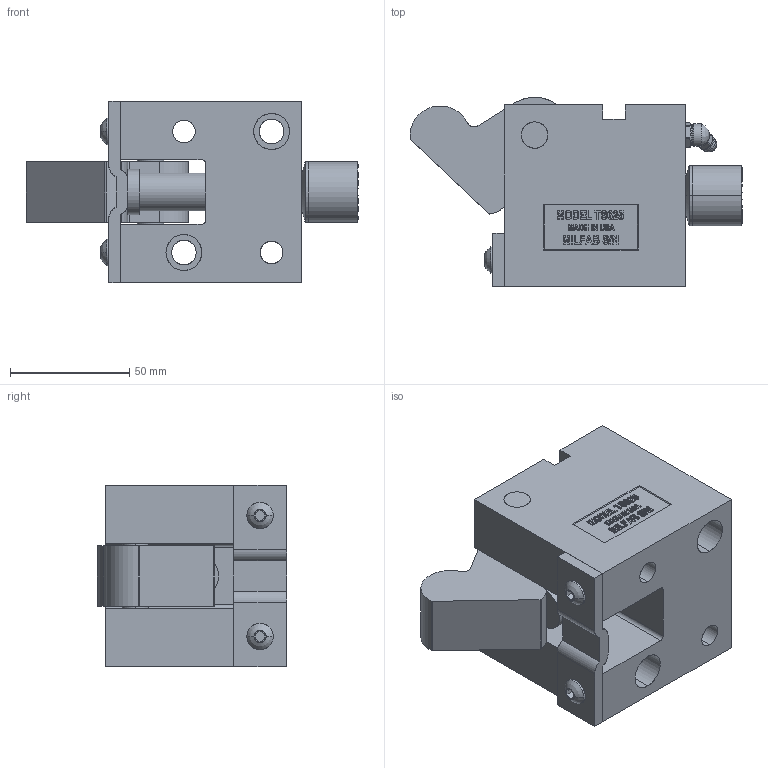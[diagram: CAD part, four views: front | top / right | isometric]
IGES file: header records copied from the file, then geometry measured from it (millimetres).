
Start section: SolidWorks IGES file using analytic representation for surfaces
Global section: file name: Y:\JIM'S INCH CAM UNITS\TS62545\OPEN\TS62545-O.IGS; native system: SolidWorks 2006 by SolidWorks Corporation; preprocessor: SolidWorks 2006 by SolidWorks Corporation; author: Jim; date: 090210.125146; units: inch
Bounding box: 139.36 x 79.37 x 76.2 mm (x, y, z)
Surface area: 79882.6 mm2 (no closed solid volume)
Topology: 0 solids, 0 shells, 582 faces, 6865 edges, 6861 vertices
Faces by surface type: bspline 458, revolution 124
